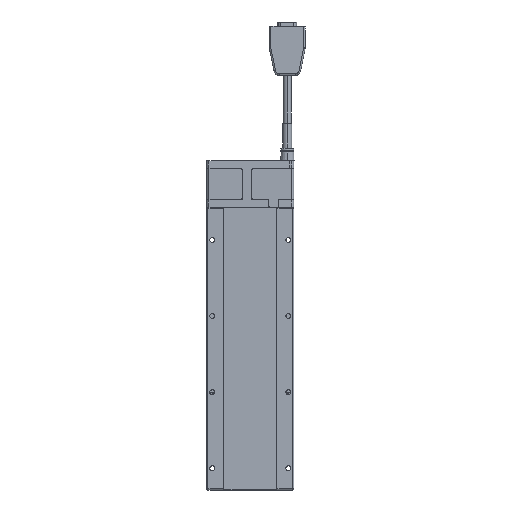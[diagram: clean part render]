
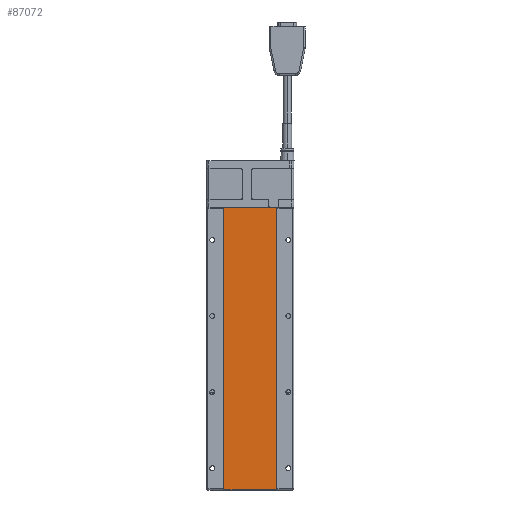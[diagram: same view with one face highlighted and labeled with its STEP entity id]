
A CAD part, front view. The second image highlights one B-rep face of the part: STEP entity #87072.
In plain terms, the highlighted planar face has unit normal (0, -1, 0).
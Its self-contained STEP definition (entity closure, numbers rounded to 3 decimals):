
#86 = LINE ( 'NONE', #1282, #11175 ) ;
#1282 = CARTESIAN_POINT ( 'NONE',  ( -24.3, 0.5, 0.3 ) ) ;
#2329 = EDGE_CURVE ( 'NONE', #55920, #5202, #63340, .T. ) ;
#2566 = VECTOR ( 'NONE', #59873, 1000. ) ;
#3319 = CARTESIAN_POINT ( 'NONE',  ( 24.3, 0.5, 0.3 ) ) ;
#5202 = VERTEX_POINT ( 'NONE', #118484 ) ;
#8238 = ORIENTED_EDGE ( 'NONE', *, *, #2329, .T. ) ;
#10143 = ORIENTED_EDGE ( 'NONE', *, *, #11111, .T. ) ;
#10500 = CARTESIAN_POINT ( 'NONE',  ( 24.3, 0.5, 0.3 ) ) ;
#11111 = EDGE_CURVE ( 'NONE', #75520, #67081, #86, .T. ) ;
#11175 = VECTOR ( 'NONE', #65056, 1000. ) ;
#13973 = ORIENTED_EDGE ( 'NONE', *, *, #83365, .T. ) ;
#17807 = CARTESIAN_POINT ( 'NONE',  ( -24.3, 0.5, 259.9 ) ) ;
#19040 = DIRECTION ( 'NONE',  ( -1., 0., 0. ) ) ;
#28089 = CARTESIAN_POINT ( 'NONE',  ( -24.3, 0.5, 259.9 ) ) ;
#34742 = EDGE_LOOP ( 'NONE', ( #13973, #10143, #79633, #8238 ) ) ;
#38374 = LINE ( 'NONE', #10500, #73605 ) ;
#55920 = VERTEX_POINT ( 'NONE', #70599 ) ;
#59873 = DIRECTION ( 'NONE',  ( 0., 0., -1. ) ) ;
#63340 = LINE ( 'NONE', #28089, #88520 ) ;
#64760 = EDGE_CURVE ( 'NONE', #67081, #55920, #38374, .T. ) ;
#65056 = DIRECTION ( 'NONE',  ( 1., 0., 0. ) ) ;
#67081 = VERTEX_POINT ( 'NONE', #3319 ) ;
#67536 = DIRECTION ( 'NONE',  ( 0., 0., 1. ) ) ;
#70599 = CARTESIAN_POINT ( 'NONE',  ( 24.3, 0.5, 259.9 ) ) ;
#73605 = VECTOR ( 'NONE', #67536, 1000. ) ;
#74759 = AXIS2_PLACEMENT_3D ( 'NONE', #17807, #81559, #80970 ) ;
#75520 = VERTEX_POINT ( 'NONE', #106610 ) ;
#79633 = ORIENTED_EDGE ( 'NONE', *, *, #64760, .T. ) ;
#80970 = DIRECTION ( 'NONE',  ( -1., 0., 0. ) ) ;
#81559 = DIRECTION ( 'NONE',  ( 0., 1., 0. ) ) ;
#82151 = FACE_OUTER_BOUND ( 'NONE', #34742, .T. ) ;
#83365 = EDGE_CURVE ( 'NONE', #5202, #75520, #88354, .T. ) ;
#87072 = ADVANCED_FACE ( 'NONE', ( #82151 ), #89472, .F. ) ;
#88354 = LINE ( 'NONE', #88953, #2566 ) ;
#88520 = VECTOR ( 'NONE', #19040, 1000. ) ;
#88953 = CARTESIAN_POINT ( 'NONE',  ( -24.3, 0.5, 0.3 ) ) ;
#89472 = PLANE ( 'NONE',  #74759 ) ;
#106610 = CARTESIAN_POINT ( 'NONE',  ( -24.3, 0.5, 0.3 ) ) ;
#118484 = CARTESIAN_POINT ( 'NONE',  ( -24.3, 0.5, 259.9 ) ) ;
